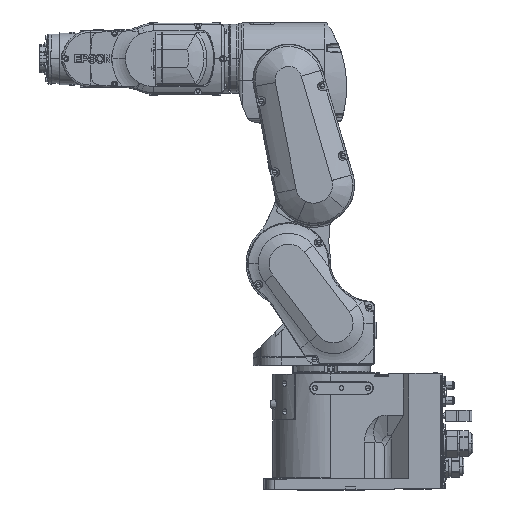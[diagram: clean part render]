
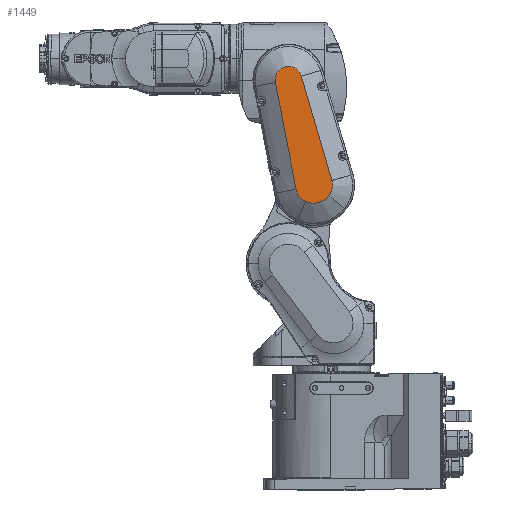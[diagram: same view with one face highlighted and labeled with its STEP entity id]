
A CAD part, top view. The second image highlights one B-rep face of the part: STEP entity #1449.
In plain terms, the highlighted planar face has unit normal (0, 0, 1).
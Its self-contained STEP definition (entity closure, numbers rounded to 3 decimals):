
#473 = CARTESIAN_POINT ( 'NONE',  ( 10.716, 105.265, 110. ) ) ;
#1449 = ADVANCED_FACE ( 'NONE', ( #132523 ), #73191, .F. ) ;
#1592 = EDGE_CURVE ( 'NONE', #50895, #174200, #99185, .T. ) ;
#3958 = ORIENTED_EDGE ( 'NONE', *, *, #43555, .T. ) ;
#3987 = CIRCLE ( 'NONE', #72377, 27.491 ) ;
#8181 = AXIS2_PLACEMENT_3D ( 'NONE', #148608, #119398, #178841 ) ;
#10676 = CARTESIAN_POINT ( 'NONE',  ( 57.085, 95.777, 110. ) ) ;
#11937 = CARTESIAN_POINT ( 'NONE',  ( 32.632, 216.088, 110. ) ) ;
#13405 = CIRCLE ( 'NONE', #159354, 18.991 ) ;
#21490 = DIRECTION ( 'NONE',  ( 0.191, -0.982, 0. ) ) ;
#22973 = AXIS2_PLACEMENT_3D ( 'NONE', #103864, #116604, #100998 ) ;
#25525 = CARTESIAN_POINT ( 'NONE',  ( 47.041, 166.832, 110. ) ) ;
#27544 = VERTEX_POINT ( 'NONE', #101747 ) ;
#30175 = ORIENTED_EDGE ( 'NONE', *, *, #49910, .T. ) ;
#37838 = CARTESIAN_POINT ( 'NONE',  ( 18.224, 265.344, 110. ) ) ;
#38073 = VECTOR ( 'NONE', #192197, 1000. ) ;
#38492 = CIRCLE ( 'NONE', #22973, 23.991 ) ;
#38574 = ORIENTED_EDGE ( 'NONE', *, *, #188335, .T. ) ;
#39185 = VERTEX_POINT ( 'NONE', #163272 ) ;
#39995 = CARTESIAN_POINT ( 'NONE',  ( 10.719, 105.265, 110. ) ) ;
#40781 = CARTESIAN_POINT ( 'NONE',  ( -18.653, 256.374, 110. ) ) ;
#43555 = EDGE_CURVE ( 'NONE', #80438, #102590, #3987, .T. ) ;
#43814 = CARTESIAN_POINT ( 'NONE',  ( 61.449, 117.576, 110. ) ) ;
#45177 = ORIENTED_EDGE ( 'NONE', *, *, #1592, .T. ) ;
#49910 = EDGE_CURVE ( 'NONE', #39185, #50895, #88827, .T. ) ;
#50895 = VERTEX_POINT ( 'NONE', #40781 ) ;
#52440 = CARTESIAN_POINT ( 'NONE',  ( 35.69, 113.04, 110. ) ) ;
#58254 = EDGE_LOOP ( 'NONE', ( #30175, #45177, #74645, #38574, #3958, #107237, #132149, #180013, #185861 ) ) ;
#63639 = AXIS2_PLACEMENT_3D ( 'NONE', #100399, #159827, #161741 ) ;
#64665 = EDGE_CURVE ( 'NONE', #143372, #164490, #73343, .T. ) ;
#65791 = EDGE_CURVE ( 'NONE', #102590, #143372, #38492, .T. ) ;
#72377 = AXIS2_PLACEMENT_3D ( 'NONE', #52440, #125398, #157544 ) ;
#73191 = PLANE ( 'NONE',  #63639 ) ;
#73343 = LINE ( 'NONE', #74300, #38073 ) ;
#73385 = DIRECTION ( 'NONE',  ( 0.982, 0.191, 0. ) ) ;
#74300 = CARTESIAN_POINT ( 'NONE',  ( 61.441, 117.574, 110. ) ) ;
#74645 = ORIENTED_EDGE ( 'NONE', *, *, #158988, .F. ) ;
#80268 = VERTEX_POINT ( 'NONE', #37838 ) ;
#80438 = VERTEX_POINT ( 'NONE', #137040 ) ;
#87890 = CARTESIAN_POINT ( 'NONE',  ( -18.642, 256.376, 110. ) ) ;
#88827 = LINE ( 'NONE', #87890, #142197 ) ;
#88982 = CIRCLE ( 'NONE', #8181, 23.991 ) ;
#97668 = VECTOR ( 'NONE', #21490, 1000. ) ;
#99185 = LINE ( 'NONE', #113802, #97668 ) ;
#100399 = CARTESIAN_POINT ( 'NONE',  ( 24.508, 87.926, 110. ) ) ;
#100998 = DIRECTION ( 'NONE',  ( 0.778, -0.628, 0. ) ) ;
#101492 = DIRECTION ( 'NONE',  ( -0.982, -0.191, 0. ) ) ;
#101747 = CARTESIAN_POINT ( 'NONE',  ( 10.716, 105.265, 110. ) ) ;
#102590 = VERTEX_POINT ( 'NONE', #10676 ) ;
#103864 = CARTESIAN_POINT ( 'NONE',  ( 38.414, 110.842, 110. ) ) ;
#107237 = ORIENTED_EDGE ( 'NONE', *, *, #65791, .T. ) ;
#113802 = CARTESIAN_POINT ( 'NONE',  ( -18.653, 256.374, 110. ) ) ;
#115596 = EDGE_CURVE ( 'NONE', #80268, #39185, #13405, .T. ) ;
#116604 = DIRECTION ( 'NONE',  ( 0., 0., 1. ) ) ;
#119398 = DIRECTION ( 'NONE',  ( 0., 0., 1. ) ) ;
#120989 = LINE ( 'NONE', #473, #171989 ) ;
#125398 = DIRECTION ( 'NONE',  ( 0., 0., 1. ) ) ;
#126841 = DIRECTION ( 'NONE',  ( 0., 0., 1. ) ) ;
#132149 = ORIENTED_EDGE ( 'NONE', *, *, #64665, .T. ) ;
#132523 = FACE_OUTER_BOUND ( 'NONE', #58254, .T. ) ;
#137012 = CARTESIAN_POINT ( 'NONE',  ( 0., 260., 110. ) ) ;
#137040 = CARTESIAN_POINT ( 'NONE',  ( 24.508, 87.926, 110. ) ) ;
#140559 = DIRECTION ( 'NONE',  ( 0.96, 0.281, 0. ) ) ;
#142197 = VECTOR ( 'NONE', #101492, 1000. ) ;
#143372 = VERTEX_POINT ( 'NONE', #143781 ) ;
#143781 = CARTESIAN_POINT ( 'NONE',  ( 61.441, 117.574, 110. ) ) ;
#148608 = CARTESIAN_POINT ( 'NONE',  ( 34.266, 109.843, 110. ) ) ;
#157172 = B_SPLINE_CURVE_WITH_KNOTS ( 'NONE', 3,
 ( #175410, #25525, #11937, #190077 ),
 .UNSPECIFIED., .F., .F.,
 ( 4, 4 ),
 ( 0., 1. ),
 .UNSPECIFIED. ) ;
#157544 = DIRECTION ( 'NONE',  ( -0.407, -0.914, 0. ) ) ;
#158988 = EDGE_CURVE ( 'NONE', #27544, #174200, #120989, .T. ) ;
#159354 = AXIS2_PLACEMENT_3D ( 'NONE', #137012, #126841, #140559 ) ;
#159827 = DIRECTION ( 'NONE',  ( 0., 0., -1. ) ) ;
#161741 = DIRECTION ( 'NONE',  ( 0., -1., 0. ) ) ;
#163272 = CARTESIAN_POINT ( 'NONE',  ( -18.642, 256.376, 110. ) ) ;
#164490 = VERTEX_POINT ( 'NONE', #43814 ) ;
#171989 = VECTOR ( 'NONE', #73385, 1000. ) ;
#174200 = VERTEX_POINT ( 'NONE', #39995 ) ;
#175410 = CARTESIAN_POINT ( 'NONE',  ( 61.449, 117.576, 110. ) ) ;
#177206 = EDGE_CURVE ( 'NONE', #164490, #80268, #157172, .T. ) ;
#178841 = DIRECTION ( 'NONE',  ( -0.982, -0.191, 0. ) ) ;
#180013 = ORIENTED_EDGE ( 'NONE', *, *, #177206, .T. ) ;
#185861 = ORIENTED_EDGE ( 'NONE', *, *, #115596, .T. ) ;
#188335 = EDGE_CURVE ( 'NONE', #27544, #80438, #88982, .T. ) ;
#190077 = CARTESIAN_POINT ( 'NONE',  ( 18.224, 265.344, 110. ) ) ;
#192197 = DIRECTION ( 'NONE',  ( 0.96, 0.281, 0. ) ) ;
